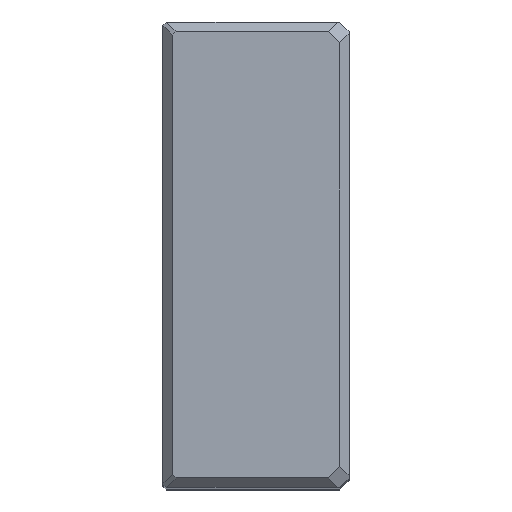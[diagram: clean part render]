
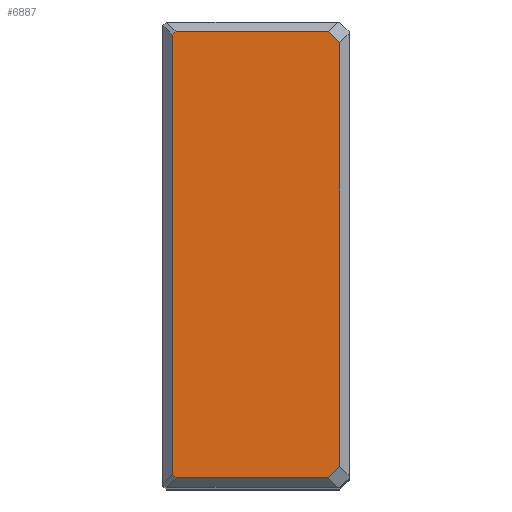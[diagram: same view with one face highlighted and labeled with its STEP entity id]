
A CAD part, top view. The second image highlights one B-rep face of the part: STEP entity #6887.
In plain terms, the highlighted planar face has unit normal (0, 0, 1).
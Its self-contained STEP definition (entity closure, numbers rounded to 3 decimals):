
#95=VERTEX_POINT(' ',#96);
#96=CARTESIAN_POINT('',(-3.,-68.326,0.));
#97=VERTEX_POINT(' ',#98);
#98=CARTESIAN_POINT('',(-6.674,-72.,0.));
#127=VERTEX_POINT(' ',#128);
#128=CARTESIAN_POINT('',(-3.,68.326,0.));
#135=VERTEX_POINT(' ',#136);
#136=CARTESIAN_POINT('',(-6.674,72.,0.));
#161=VERTEX_POINT(' ',#162);
#162=CARTESIAN_POINT('',(-55.775,-72.,0.));
#169=VERTEX_POINT(' ',#170);
#170=CARTESIAN_POINT('',(-57.,-70.775,0.));
#189=VERTEX_POINT(' ',#190);
#190=CARTESIAN_POINT('',(-57.,70.775,0.));
#193=VERTEX_POINT(' ',#194);
#194=CARTESIAN_POINT('',(-55.775,72.,0.));
#1392=LINE('',#1393,#1394);
#1393=CARTESIAN_POINT('',(32.663,-32.663,0.));
#1394=VECTOR('',#1395,1.);
#1395=DIRECTION('',(0.707,0.707,0.));
#1396=EDGE_CURVE(' ',#95,#97,#1392,.F.);
#1522=LINE('',#1523,#1524);
#1523=CARTESIAN_POINT('',(-3.,-75.12,0.));
#1524=VECTOR('',#1525,1.);
#1525=DIRECTION('',(0.,1.,0.));
#1526=EDGE_CURVE(' ',#95,#127,#1522,.T.);
#1547=LINE('',#1548,#1549);
#1548=CARTESIAN_POINT('',(32.663,32.663,0.));
#1549=VECTOR('',#1550,1.);
#1550=DIRECTION('',(-0.707,0.707,0.));
#1551=EDGE_CURVE(' ',#135,#127,#1547,.F.);
#1697=LINE('',#1698,#1699);
#1698=CARTESIAN_POINT('',(-60.12,-72.,0.));
#1699=VECTOR('',#1700,1.);
#1700=DIRECTION('',(1.,0.,0.));
#1701=EDGE_CURVE(' ',#161,#97,#1697,.T.);
#1712=LINE('',#1713,#1714);
#1713=CARTESIAN_POINT('',(-63.888,-63.888,0.));
#1714=VECTOR('',#1715,1.);
#1715=DIRECTION('',(0.707,-0.707,0.));
#1716=EDGE_CURVE(' ',#161,#169,#1712,.F.);
#1809=LINE('',#1810,#1811);
#1810=CARTESIAN_POINT('',(-57.,-75.12,0.));
#1811=VECTOR('',#1812,1.);
#1812=DIRECTION('',(0.,1.,0.));
#1813=EDGE_CURVE(' ',#169,#189,#1809,.T.);
#1814=LINE('',#1815,#1816);
#1815=CARTESIAN_POINT('',(-63.888,63.888,0.));
#1816=VECTOR('',#1817,1.);
#1817=DIRECTION('',(-0.707,-0.707,0.));
#1818=EDGE_CURVE(' ',#189,#193,#1814,.F.);
#1819=LINE('',#1820,#1821);
#1820=CARTESIAN_POINT('',(-60.12,72.,0.));
#1821=VECTOR('',#1822,1.);
#1822=DIRECTION('',(1.,0.,0.));
#1823=EDGE_CURVE(' ',#135,#193,#1819,.F.);
#6872=ORIENTED_EDGE('',*,*,#1818,.F.);
#6873=ORIENTED_EDGE('',*,*,#1813,.F.);
#6874=ORIENTED_EDGE('',*,*,#1716,.F.);
#6875=ORIENTED_EDGE('',*,*,#1701,.T.);
#6876=ORIENTED_EDGE('',*,*,#1396,.F.);
#6877=ORIENTED_EDGE('',*,*,#1526,.T.);
#6878=ORIENTED_EDGE('',*,*,#1551,.F.);
#6879=ORIENTED_EDGE('',*,*,#1823,.T.);
#6880=EDGE_LOOP('',(#6872,#6873,#6874,#6875,#6876,#6877,#6878,#6879));
#6881=FACE_OUTER_BOUND('',#6880,.T.);
#6882=PLANE('',#6883);
#6883=AXIS2_PLACEMENT_3D('',#6884,#6885,#6886);
#6884=CARTESIAN_POINT('',(-57.,0.,0.));
#6885=DIRECTION('',(0.,0.,1.));
#6886=DIRECTION('',(1.,0.,0.));
#6887=ADVANCED_FACE('',(#6881),#6882,.T.);
